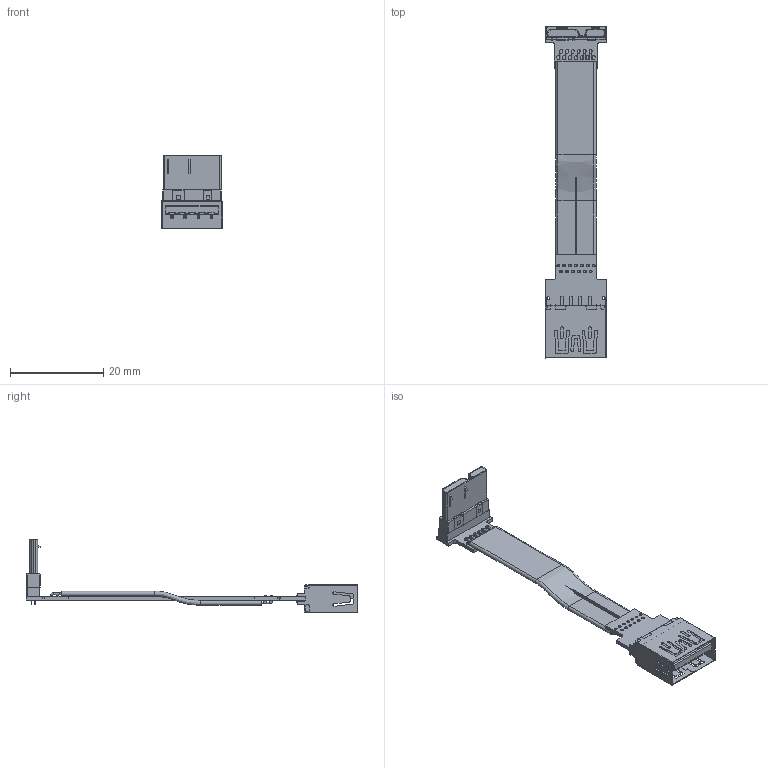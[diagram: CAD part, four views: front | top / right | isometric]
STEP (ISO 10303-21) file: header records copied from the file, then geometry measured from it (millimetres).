
FILE_DESCRIPTION(('Open CASCADE Model'),'2;1');
FILE_NAME('Open CASCADE Shape Model','2022-04-17T17:15:03',('Author'),( 'Open CASCADE'),'Open CASCADE STEP processor 6.8','Open CASCADE 6.8' ,'Unknown');
FILE_SCHEMA(('AUTOMOTIVE_DESIGN { 1 0 10303 214 1 1 1 1 }'));
Length unit declared in the file: millimetre
Products named in the file (53): PCB; Board; Open CASCADE STEP translator 6.8 6.1.1; _1; USB_傻遴20211224(5); Designator22; micro_usb_3.0; Free-Models; cable13-US1A
Assembly tree (52 placements, depth 3):
  PCB
    Board
      Open CASCADE STEP translator 6.8 6.1.1
    _1
      USB_傻遴20211224(5)
      USB_傻遴20211224(5)
      USB_傻遴20211224(5)
      USB_傻遴20211224(5)
      USB_傻遴20211224(5)
      USB_傻遴20211224(5)
      USB_傻遴20211224(5)
      USB_傻遴20211224(5)
      USB_傻遴20211224(5)
      USB_傻遴20211224(5)
      USB_傻遴20211224(5)
      USB_傻遴20211224(5)
      USB_傻遴20211224(5)
      USB_傻遴20211224(5)
      USB_傻遴20211224(5)
      USB_傻遴20211224(5)
      USB_傻遴20211224(5)
      USB_傻遴20211224(5)
      USB_傻遴20211224(5)
    Designator22
      micro_usb_3.0
    Free-Models
      cable13-US1A
      cable13-US1A
      cable13-US1A
      cable13-US1A
      cable13-US1A
      cable13-US1A
      cable13-US1A
      cable13-US1A
      cable13-US1A
      cable13-US1A
      cable13-US1A
      cable13-US1A
      cable13-US1A
      cable13-US1A
      cable13-US1A
      cable13-US1A
      cable13-US1A
      cable13-US1A
      cable13-US1A
      cable13-US1A
      cable13-US1A
      cable13-US1A
      cable13-US1A
      cable13-US1A
      cable13-US1A
      cable13-US1A
      cable13-US1A
Bounding box: 13.28 x 71.28 x 15.86 mm (x, y, z)
Volume: 1200.4 mm3; surface area: 3920.6 mm2
Topology: 48 solids, 48 shells, 1020 faces, 2612 edges, 1711 vertices
Faces by surface type: plane 608, cylinder 347, bspline 33, torus 26, extrusion 6
Full cylindrical faces by diameter (mm): 0.4 x59, 0.45 x10, 0.6 x26
Entity records: 41720 total; most frequent: CARTESIAN_POINT 7021, DIRECTION 5309, ORIENTED_EDGE 5224, EDGE_CURVE 2612, AXIS2_PLACEMENT_3D 1776, VECTOR 1757, LINE 1751, VERTEX_POINT 1711
